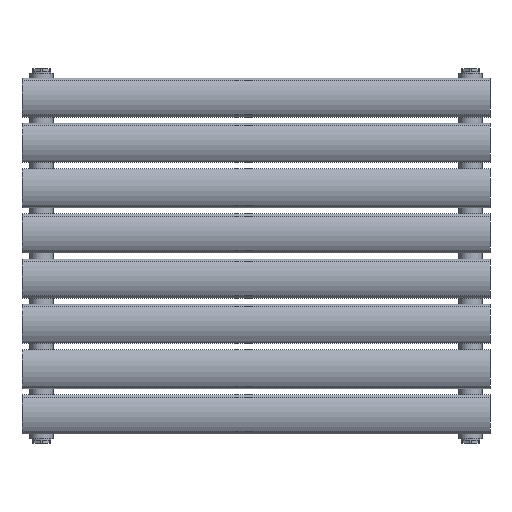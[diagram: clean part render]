
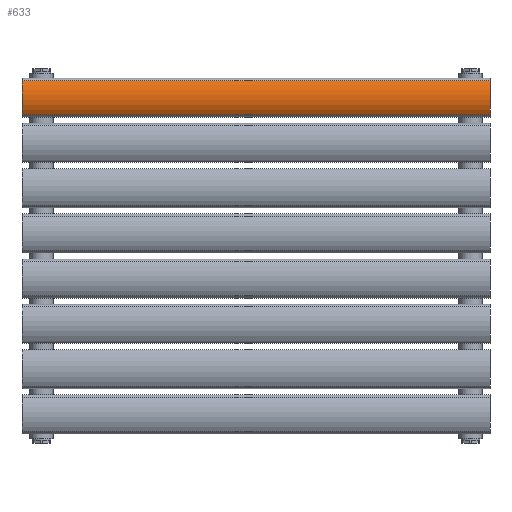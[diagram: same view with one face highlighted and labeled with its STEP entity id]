
A CAD part, top view. The second image highlights one B-rep face of the part: STEP entity #633.
In plain terms, the highlighted cylindrical face has radius 39.5 mm (diameter 79 mm), a partial arc.
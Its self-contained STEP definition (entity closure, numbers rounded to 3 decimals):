
#83=LINE('',#1196,#115);
#84=LINE('',#1200,#116);
#115=VECTOR('',#830,10.);
#116=VECTOR('',#833,10.);
#212=FACE_OUTER_BOUND('',#255,.T.);
#255=EDGE_LOOP('',(#476,#477,#478,#479));
#299=CIRCLE('',#719,39.5);
#300=CIRCLE('',#720,39.5);
#342=VERTEX_POINT('',#1194);
#343=VERTEX_POINT('',#1195);
#344=VERTEX_POINT('',#1197);
#345=VERTEX_POINT('',#1199);
#397=EDGE_CURVE('',#342,#343,#83,.T.);
#398=EDGE_CURVE('',#344,#342,#299,.T.);
#399=EDGE_CURVE('',#345,#344,#84,.T.);
#400=EDGE_CURVE('',#343,#345,#300,.T.);
#476=ORIENTED_EDGE('',*,*,#397,.F.);
#477=ORIENTED_EDGE('',*,*,#398,.F.);
#478=ORIENTED_EDGE('',*,*,#399,.F.);
#479=ORIENTED_EDGE('',*,*,#400,.F.);
#616=CYLINDRICAL_SURFACE('',#718,39.5);
#633=ADVANCED_FACE('',(#212),#616,.T.);
#718=AXIS2_PLACEMENT_3D('',#1193,#828,#829);
#719=AXIS2_PLACEMENT_3D('',#1198,#831,#832);
#720=AXIS2_PLACEMENT_3D('',#1201,#834,#835);
#828=DIRECTION('center_axis',(0.,0.,1.));
#829=DIRECTION('ref_axis',(-0.552,-0.834,0.));
#830=DIRECTION('',(0.,0.,-1.));
#831=DIRECTION('center_axis',(0.,0.,1.));
#832=DIRECTION('ref_axis',(-0.552,-0.834,0.));
#833=DIRECTION('',(0.,0.,1.));
#834=DIRECTION('center_axis',(0.,0.,-1.));
#835=DIRECTION('ref_axis',(-0.552,-0.834,0.));
#1193=CARTESIAN_POINT('Origin',(0.,14.5,0.));
#1194=CARTESIAN_POINT('',(21.816,-18.429,300.));
#1195=CARTESIAN_POINT('',(21.816,-18.429,-300.));
#1196=CARTESIAN_POINT('',(21.816,-18.429,0.));
#1197=CARTESIAN_POINT('',(-21.816,-18.429,300.));
#1198=CARTESIAN_POINT('Origin',(0.,14.5,300.));
#1199=CARTESIAN_POINT('',(-21.816,-18.429,-300.));
#1200=CARTESIAN_POINT('',(-21.816,-18.429,0.));
#1201=CARTESIAN_POINT('Origin',(0.,14.5,-300.));
